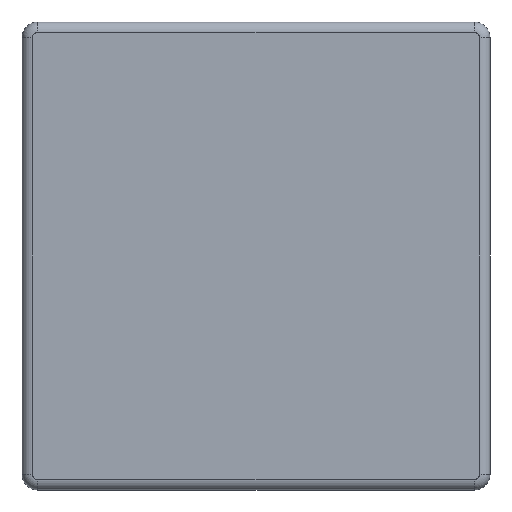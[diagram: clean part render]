
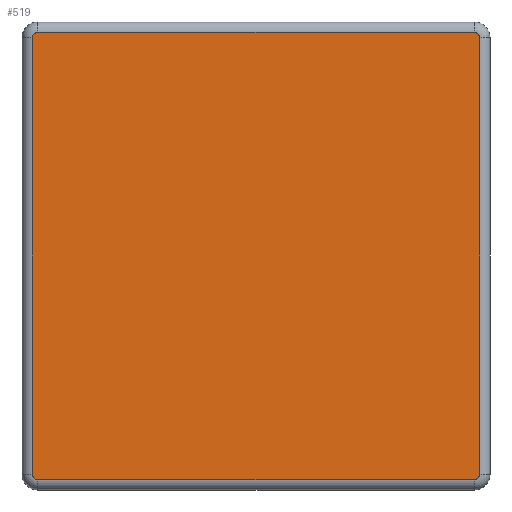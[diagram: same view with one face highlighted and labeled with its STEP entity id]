
A CAD part, front view. The second image highlights one B-rep face of the part: STEP entity #519.
In plain terms, the highlighted planar face has unit normal (0, -1, 0).
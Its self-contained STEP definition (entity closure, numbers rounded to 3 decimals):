
#29 = DIRECTION ( 'NONE',  ( 0., 0., 1. ) ) ;
#85 = DIRECTION ( 'NONE',  ( 0., 0., 1. ) ) ;
#103 = ORIENTED_EDGE ( 'NONE', *, *, #2050, .T. ) ;
#145 = DIRECTION ( 'NONE',  ( 0., 1., 0. ) ) ;
#165 = DIRECTION ( 'NONE',  ( 0., -1., 0. ) ) ;
#180 = DIRECTION ( 'NONE',  ( -1., 0., 0. ) ) ;
#191 = CARTESIAN_POINT ( 'NONE',  ( -25.552, 0., -60.188 ) ) ;
#228 = VECTOR ( 'NONE', #1140, 1000. ) ;
#317 = LINE ( 'NONE', #863, #228 ) ;
#363 = CIRCLE ( 'NONE', #2809, 1. ) ;
#367 = ORIENTED_EDGE ( 'NONE', *, *, #2939, .T. ) ;
#409 = VERTEX_POINT ( 'NONE', #1779 ) ;
#412 = LINE ( 'NONE', #761, #1074 ) ;
#519 = ADVANCED_FACE ( 'NONE', ( #1722 ), #697, .F. ) ;
#616 = EDGE_CURVE ( 'NONE', #2841, #680, #2203, .T. ) ;
#640 = ORIENTED_EDGE ( 'NONE', *, *, #1432, .T. ) ;
#680 = VERTEX_POINT ( 'NONE', #1338 ) ;
#694 = CARTESIAN_POINT ( 'NONE',  ( 58.448, 0., 25.812 ) ) ;
#697 = PLANE ( 'NONE',  #1009 ) ;
#726 = AXIS2_PLACEMENT_3D ( 'NONE', #1852, #165, #2135 ) ;
#761 = CARTESIAN_POINT ( 'NONE',  ( 59.448, 0., 0. ) ) ;
#863 = CARTESIAN_POINT ( 'NONE',  ( 0., 0., -60.188 ) ) ;
#939 = EDGE_LOOP ( 'NONE', ( #3533, #3356, #2968, #367, #1451, #1206, #103, #640 ) ) ;
#1008 = CARTESIAN_POINT ( 'NONE',  ( -26.552, 0., -59.188 ) ) ;
#1009 = AXIS2_PLACEMENT_3D ( 'NONE', #3233, #145, #2101 ) ;
#1031 = VERTEX_POINT ( 'NONE', #1008 ) ;
#1040 = DIRECTION ( 'NONE',  ( 0., -1., 0. ) ) ;
#1044 = DIRECTION ( 'NONE',  ( 0., 0., 1. ) ) ;
#1074 = VECTOR ( 'NONE', #1044, 1000. ) ;
#1083 = AXIS2_PLACEMENT_3D ( 'NONE', #2726, #1040, #3015 ) ;
#1140 = DIRECTION ( 'NONE',  ( 1., 0., 0. ) ) ;
#1145 = CARTESIAN_POINT ( 'NONE',  ( 59.448, 0., -59.188 ) ) ;
#1206 = ORIENTED_EDGE ( 'NONE', *, *, #2276, .T. ) ;
#1338 = CARTESIAN_POINT ( 'NONE',  ( -25.552, 0., 25.812 ) ) ;
#1350 = VERTEX_POINT ( 'NONE', #1145 ) ;
#1432 = EDGE_CURVE ( 'NONE', #409, #2841, #2918, .T. ) ;
#1451 = ORIENTED_EDGE ( 'NONE', *, *, #2537, .T. ) ;
#1532 = DIRECTION ( 'NONE',  ( 0., 0., -1. ) ) ;
#1712 = DIRECTION ( 'NONE',  ( 0., -1., 0. ) ) ;
#1722 = FACE_OUTER_BOUND ( 'NONE', #939, .T. ) ;
#1771 = DIRECTION ( 'NONE',  ( 0., -1., 0. ) ) ;
#1779 = CARTESIAN_POINT ( 'NONE',  ( 59.448, 0., 24.812 ) ) ;
#1852 = CARTESIAN_POINT ( 'NONE',  ( 58.448, 0., 24.812 ) ) ;
#2007 = VERTEX_POINT ( 'NONE', #2716 ) ;
#2050 = EDGE_CURVE ( 'NONE', #1350, #409, #412, .T. ) ;
#2101 = DIRECTION ( 'NONE',  ( 0., 0., 1. ) ) ;
#2105 = AXIS2_PLACEMENT_3D ( 'NONE', #3457, #1771, #85 ) ;
#2135 = DIRECTION ( 'NONE',  ( 0., 0., 1. ) ) ;
#2161 = LINE ( 'NONE', #3229, #3307 ) ;
#2203 = LINE ( 'NONE', #3557, #2964 ) ;
#2276 = EDGE_CURVE ( 'NONE', #2007, #1350, #363, .T. ) ;
#2537 = EDGE_CURVE ( 'NONE', #3290, #2007, #317, .T. ) ;
#2558 = CIRCLE ( 'NONE', #2105, 1. ) ;
#2716 = CARTESIAN_POINT ( 'NONE',  ( 58.448, 0., -60.188 ) ) ;
#2726 = CARTESIAN_POINT ( 'NONE',  ( -25.552, 0., -59.188 ) ) ;
#2797 = CARTESIAN_POINT ( 'NONE',  ( -26.552, 0., 24.812 ) ) ;
#2809 = AXIS2_PLACEMENT_3D ( 'NONE', #3409, #1712, #29 ) ;
#2841 = VERTEX_POINT ( 'NONE', #694 ) ;
#2918 = CIRCLE ( 'NONE', #726, 1. ) ;
#2939 = EDGE_CURVE ( 'NONE', #1031, #3290, #3482, .T. ) ;
#2964 = VECTOR ( 'NONE', #180, 1000. ) ;
#2968 = ORIENTED_EDGE ( 'NONE', *, *, #3188, .T. ) ;
#3015 = DIRECTION ( 'NONE',  ( 0., 0., 1. ) ) ;
#3061 = VERTEX_POINT ( 'NONE', #2797 ) ;
#3188 = EDGE_CURVE ( 'NONE', #3061, #1031, #2161, .T. ) ;
#3229 = CARTESIAN_POINT ( 'NONE',  ( -26.552, 0., 0. ) ) ;
#3233 = CARTESIAN_POINT ( 'NONE',  ( 0., 0., 0. ) ) ;
#3290 = VERTEX_POINT ( 'NONE', #191 ) ;
#3307 = VECTOR ( 'NONE', #1532, 1000. ) ;
#3356 = ORIENTED_EDGE ( 'NONE', *, *, #3648, .T. ) ;
#3409 = CARTESIAN_POINT ( 'NONE',  ( 58.448, 0., -59.188 ) ) ;
#3457 = CARTESIAN_POINT ( 'NONE',  ( -25.552, 0., 24.812 ) ) ;
#3482 = CIRCLE ( 'NONE', #1083, 1. ) ;
#3533 = ORIENTED_EDGE ( 'NONE', *, *, #616, .T. ) ;
#3557 = CARTESIAN_POINT ( 'NONE',  ( 0., 0., 25.812 ) ) ;
#3648 = EDGE_CURVE ( 'NONE', #680, #3061, #2558, .T. ) ;
